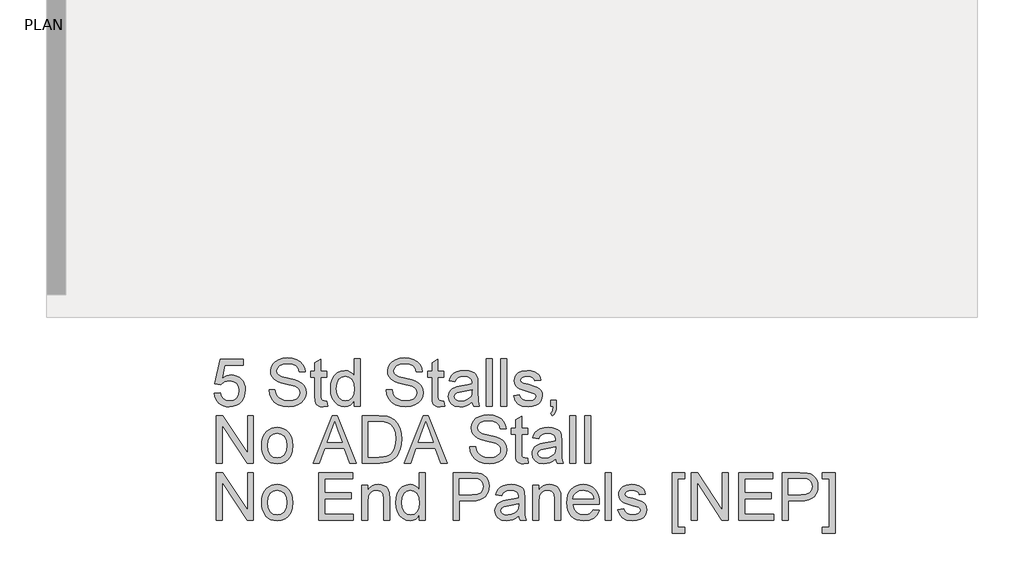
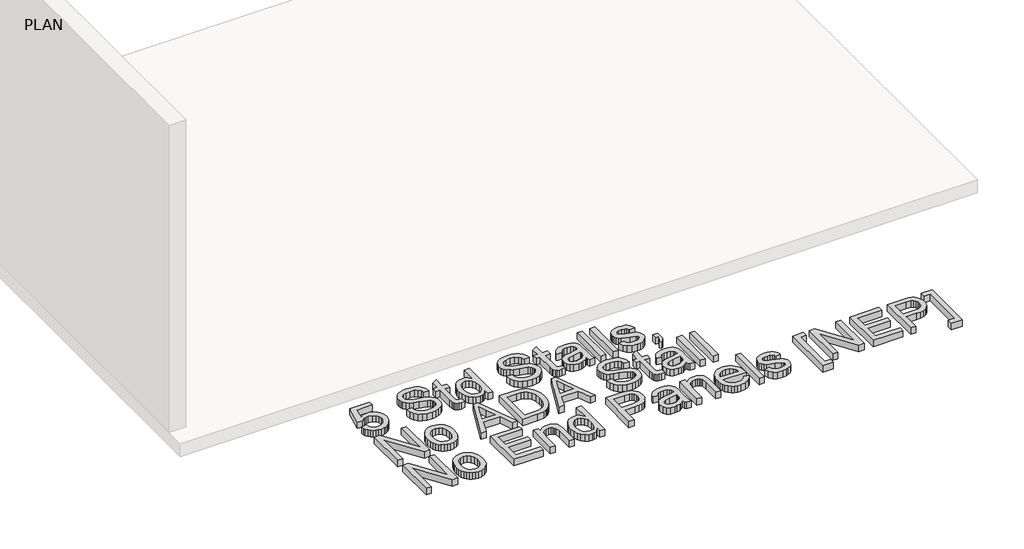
# One storey, part 6 of 21: 1 proxy.
"""IFC4 building model written with IfcOpenShell, lengths in millimetres."""

from ifc_helpers import new_model, si_unit, origin, origin_with_axes, place, context, project, spatial, polyline, outline, extrude, element, save

model = new_model("IFC4")

# Units and contexts
model_context = context("Model", 3, world=origin())
ifc_project = project(units=[si_unit("LENGTHUNIT", "METRE", prefix="MILLI")], contexts=[model_context])

# Site, building, storey
site = spatial("IfcSite", under=ifc_project)
building = spatial("IfcBuilding", under=site)
storey = spatial("IfcBuildingStorey", under=building, Name="PLAN", Elevation=0.0)

# Proxy
placement = place(None, origin())
element("IfcBuildingElementProxy", 1, Name="12\" Arial", ObjectType="12\" Arial", at=placement, inside=storey, context=model_context, shape_type="SweptSolid", body=[
    extrude(outline(polyline([(9685.777174, -13274.8598018), (9723.8480607, -13270.1009409), (9730.8376376, -13292.9564855), (9743.0322185, -13309.3243643), (9760.3760356, -13319.1673987), (9782.8133209, -13322.4484102), (9810.1024135, -13317.884737), (9830.5506437, -13304.1937174), (9843.321493, -13282.955442), (9847.5784427, -13255.7500012), (9843.5910378, -13230.1339455), (9831.6288231, -13210.5408232), (9811.5988522, -13198.1045813), (9783.4081785, -13193.9591674), (9764.9397088, -13195.6136151), (9749.9846168, -13200.5769583), (9728.6069216, -13217.7534716), (9690.5360348, -13212.9946108), (9723.8480607, -13055.9522029), (9871.3727469, -13055.9522029), (9871.3727469, -13094.0230897), (9754.6319418, -13094.0230897), (9738.3477149, -13177.898012), (9765.543861, -13161.3907135), (9794.0412582, -13155.8882806), (9812.5817614, -13157.5938489), (9829.6118841, -13162.7105538), (9845.1316261, -13171.2383953), (9859.1409874, -13183.1773733), (9870.738387, -13197.7978579), (9879.0222439, -13214.370219), (9883.9925581, -13232.8944566), (9885.6493294, -13253.3705708), (9879.6821641, -13291.4414575), (9872.2232074, -13308.4134886), (9861.780668, -13324.0099114), (9845.9611736, -13339.9827676), (9827.5019985, -13351.3919506), (9806.4031428, -13358.2374604), (9782.6646065, -13360.519297), (9763.0180399, -13359.0530659), (9745.2722292, -13354.6543728), (9729.4271744, -13347.3232175), (9715.4828756, -13337.0596001), (9703.8808287, -13324.3747264), (9695.0625294, -13309.7798021), (9689.0279778, -13293.2748272), (9685.777174, -13274.8598018)])), origin_with_axes(), (0.0, 0.0, 1.0), 50.8),
    extrude(outline(polyline([(10037.9328765, -13251.0654975), (10076.0037632, -13251.0654975), (10080.3722488, -13272.1922372), (10088.2727014, -13289.1735629), (10100.5974074, -13302.6508055), (10118.2386532, -13313.2652959), (10139.8022414, -13320.1526316), (10163.8939745, -13322.4484102), (10185.104366, -13320.7103106), (10203.6750768, -13315.4960119), (10218.7231153, -13307.2423627), (10229.3654897, -13296.3862114), (10235.6951464, -13283.9220856), (10237.805032, -13270.8445129), (10236.2249415, -13258.1015477), (10231.4846699, -13247.0873873), (10221.8554124, -13237.6904961), (10205.6083641, -13229.7993381), (10150.1750709, -13215.2625054), (10113.7865158, -13205.6425426), (10090.5034174, -13196.4873122), (10071.5516259, -13183.6792844), (10058.1208565, -13168.1572188), (10050.1181627, -13150.2557227), (10047.4505982, -13130.3094036), (10050.750199, -13108.011538), (10060.6490013, -13087.2194058), (10076.886755, -13069.5967492), (10099.2032099, -13056.8073107), (10125.9903914, -13049.0276886), (10155.6403252, -13046.4344812), (10187.7626359, -13049.148519), (10215.8696578, -13057.2906325), (10238.9575686, -13070.6935179), (10256.0225461, -13089.1898716), (10266.8229295, -13111.6271569), (10271.1170579, -13136.8528373), (10233.0461711, -13136.8528373), (10226.0565943, -13114.1367124), (10211.4825829, -13097.7409497), (10188.7106902, -13087.8142634), (10157.1274692, -13084.505368), (10124.8006762, -13087.7770848), (10102.6236411, -13097.5922353), (10089.797024, -13112.0361215), (10085.5214849, -13129.1940456), (10088.5515409, -13143.8238248), (10097.6417086, -13155.5908518), (10119.1309396, -13166.1123957), (10159.8043284, -13176.8570112), (10201.7789682, -13187.062537), (10227.1719523, -13195.9668118), (10248.8749602, -13209.7786618), (10264.0159452, -13226.8250501), (10272.9109253, -13246.9200836), (10275.8759187, -13269.8778693), (10272.4647821, -13293.3468608), (10262.2313724, -13315.4216547), (10245.5939487, -13334.4199195), (10222.9707704, -13348.6593235), (10195.7653296, -13357.5543036), (10165.3811185, -13360.519297), (10128.0816877, -13357.3219373), (10097.3814584, -13347.7298584), (10072.9272341, -13331.7058817), (10054.3658178, -13309.2128285), (10042.4500764, -13281.8122), (10037.9328765, -13251.0654975)])), origin_with_axes(), (0.0, 0.0, 1.0), 50.8),
    extrude(outline(polyline([(10409.1240224, -13324.0099114), (10413.8828832, -13356.8757941), (10385.4040754, -13360.519297), (10367.1307933, -13358.9392065), (10353.5048363, -13354.1989349), (10343.8755788, -13346.8933399), (10337.5923953, -13337.6172792), (10334.1347855, -13321.6862489), (10332.9822489, -13294.4157455), (10332.9822489, -13170.1648632), (10304.4290838, -13170.1648632), (10304.4290838, -13132.0939764), (10332.9822489, -13132.0939764), (10332.9822489, -13077.7388627), (10371.0531356, -13055.3573453), (10371.0531356, -13132.0939764), (10409.1240224, -13132.0939764), (10409.1240224, -13170.1648632), (10371.0531356, -13170.1648632), (10371.0531356, -13293.3003875), (10373.06078, -13312.9306885), (10379.5670351, -13319.8830868), (10392.5423666, -13322.4484102), (10409.1240224, -13324.0099114)])), origin_with_axes(), (0.0, 0.0, 1.0), 50.8),
    extrude(outline(polyline([(10585.2018736, -13355.7604361), (10585.2018736, -13319.8459082), (10573.81128, -13337.6405158), (10560.0133719, -13350.3509498), (10543.8081495, -13357.9772102), (10525.1956127, -13360.519297), (10500.5833792, -13356.8386155), (10478.0531474, -13345.7965712), (10458.9805254, -13328.16462), (10444.7411215, -13304.7142178), (10435.8740253, -13276.393419), (10432.9183266, -13244.1502779), (10435.6416591, -13212.3068067), (10443.8116565, -13183.5491593), (10457.4190242, -13159.5131942), (10476.4544676, -13141.8347697), (10499.4773159, -13130.9600291), (10525.0468983, -13127.3351156), (10543.673377, -13129.9283229), (10560.143497, -13137.7079451), (10574.1040614, -13149.6329811), (10585.2018736, -13164.6624303), (10585.2018736, -13051.1933421), (10623.2727604, -13051.1933421), (10623.2727604, -13355.7604361), (10585.2018736, -13355.7604361)]), holes=[polyline([(10470.9892134, -13244.0015635), (10475.2833417, -13278.438242), (10488.1657267, -13302.929645), (10506.885152, -13317.5687189), (10528.6904011, -13322.4484102), (10550.4863556, -13317.7917905), (10568.7317537, -13303.8219314), (10581.0843436, -13280.2785828), (10585.2018736, -13246.9014943), (10581.0099864, -13210.4106981), (10568.4343249, -13185.1106605), (10549.7241943, -13170.3321669), (10527.1288999, -13165.4060023), (10505.1005792, -13170.1369792), (10487.0503687, -13184.3299099), (10475.0045022, -13208.7097771), (10470.9892134, -13244.0015635)])]), origin_with_axes(), (0.0, 0.0, 1.0), 50.8),
    extrude(outline(polyline([(10789.83289, -13251.0654975), (10827.9037767, -13251.0654975), (10832.2722623, -13272.1922372), (10840.1727148, -13289.1735629), (10852.4974209, -13302.6508055), (10870.1386667, -13313.2652959), (10891.7022549, -13320.1526316), (10915.793988, -13322.4484102), (10937.0043795, -13320.7103106), (10955.5750903, -13315.4960119), (10970.6231288, -13307.2423627), (10981.2655032, -13296.3862114), (10987.5951599, -13283.9220856), (10989.7050454, -13270.8445129), (10988.1249549, -13258.1015477), (10983.3846834, -13247.0873873), (10973.7554259, -13237.6904961), (10957.5083775, -13229.7993381), (10902.0750844, -13215.2625054), (10865.6865293, -13205.6425426), (10842.4034309, -13196.4873122), (10823.4516393, -13183.6792844), (10810.02087, -13168.1572188), (10802.0181762, -13150.2557227), (10799.3506117, -13130.3094036), (10802.6502124, -13108.011538), (10812.5490148, -13087.2194058), (10828.7867685, -13069.5967492), (10851.1032233, -13056.8073107), (10877.8904049, -13049.0276886), (10907.5403387, -13046.4344812), (10939.6626494, -13049.148519), (10967.7696712, -13057.2906325), (10990.8575821, -13070.6935179), (11007.9225596, -13089.1898716), (11018.722943, -13111.6271569), (11023.0170714, -13136.8528373), (10984.9461846, -13136.8528373), (10977.9566077, -13114.1367124), (10963.3825964, -13097.7409497), (10940.6107037, -13087.8142634), (10909.0274827, -13084.505368), (10876.7006897, -13087.7770848), (10854.5236546, -13097.5922353), (10841.6970375, -13112.0361215), (10837.4214984, -13129.1940456), (10840.4515543, -13143.8238248), (10849.5417221, -13155.5908518), (10871.0309531, -13166.1123957), (10911.7043419, -13176.8570112), (10953.6789817, -13187.062537), (10979.0719657, -13195.9668118), (11000.7749737, -13209.7786618), (11015.9159587, -13226.8250501), (11024.8109388, -13246.9200836), (11027.7759322, -13269.8778693), (11024.3647956, -13293.3468608), (11014.1313859, -13315.4216547), (10997.4939622, -13334.4199195), (10974.8707839, -13348.6593235), (10947.6653431, -13357.5543036), (10917.281132, -13360.519297), (10879.9817012, -13357.3219373), (10849.2814719, -13347.7298584), (10824.8272475, -13331.7058817), (10806.2658313, -13309.2128285), (10794.3500899, -13281.8122), (10789.83289, -13251.0654975)])), origin_with_axes(), (0.0, 0.0, 1.0), 50.8),
    extrude(outline(polyline([(11161.0240359, -13324.0099114), (11165.7828967, -13356.8757941), (11137.3040888, -13360.519297), (11119.0308068, -13358.9392065), (11105.4048497, -13354.1989349), (11095.7755922, -13346.8933399), (11089.4924088, -13337.6172792), (11086.034799, -13321.6862489), (11084.8822623, -13294.4157455), (11084.8822623, -13170.1648632), (11056.3290973, -13170.1648632), (11056.3290973, -13132.0939764), (11084.8822623, -13132.0939764), (11084.8822623, -13077.7388627), (11122.9531491, -13055.3573453), (11122.9531491, -13132.0939764), (11161.0240359, -13132.0939764), (11161.0240359, -13170.1648632), (11122.9531491, -13170.1648632), (11122.9531491, -13293.3003875), (11124.9607935, -13312.9306885), (11131.4670486, -13319.8830868), (11144.4423801, -13322.4484102), (11161.0240359, -13324.0099114)])), origin_with_axes(), (0.0, 0.0, 1.0), 50.8),
    extrude(outline(polyline([(11341.860748, -13327.2072711), (11323.6711177, -13342.8036939), (11304.9423978, -13353.0092197), (11285.2470343, -13358.6417776), (11264.1574732, -13360.519297), (11232.341886, -13356.002097), (11208.8728945, -13342.4504972), (11194.4011243, -13321.8721419), (11189.5772009, -13296.2746756), (11191.3989523, -13280.4923597), (11196.8642066, -13266.1600093), (11205.2944542, -13253.8910712), (11216.0111858, -13244.2989923), (11242.6682422, -13231.8069826), (11275.6084821, -13226.0814781), (11314.5344767, -13220.0585448), (11341.6376764, -13212.9946108), (11341.860748, -13204.5178899), (11339.2396566, -13187.5272695), (11331.3763827, -13176.410868), (11313.7909047, -13168.1572188), (11289.2902071, -13165.4060023), (11266.6112609, -13167.2370484), (11250.7731771, -13172.7301866), (11239.9727937, -13182.8892391), (11232.4069485, -13198.7180282), (11194.3360618, -13193.9591674), (11200.944558, -13173.1391512), (11210.8061817, -13156.780567), (11224.8411034, -13144.269968), (11243.9694932, -13134.9939072), (11267.3641275, -13129.2498135), (11294.1977823, -13127.3351156), (11319.9346684, -13129.0267419), (11340.3364253, -13134.1016208), (11355.7190712, -13141.7325286), (11366.3986242, -13151.0922412), (11373.4811476, -13162.6640806), (11378.0727047, -13176.9313684), (11379.9316347, -13210.2433944), (11379.9316347, -13257.6089312), (11381.8649219, -13323.7496612), (11389.4493564, -13355.7604361), (11351.3784697, -13355.7604361), (11345.2811792, -13342.5248544), (11341.860748, -13327.2072711)]), holes=[polyline([(11341.860748, -13251.0654975), (11280.4417002, -13262.739578), (11247.6873533, -13268.9112257), (11232.8530917, -13278.9494478), (11227.6480877, -13293.5978163), (11230.482956, -13304.9187001), (11238.9875608, -13314.1947609), (11252.9760092, -13320.3849979), (11272.2624081, -13322.4484102), (11292.7106383, -13320.1712209), (11310.7794381, -13313.3396531), (11325.4278066, -13303.2735471), (11335.6147431, -13291.2927431), (11340.131943, -13278.9494478), (11341.6376764, -13261.8472916), (11341.860748, -13251.0654975)])]), origin_with_axes(), (0.0, 0.0, 1.0), 50.8),
    extrude(outline(polyline([(11432.279104, -13355.7604361), (11432.279104, -13051.1933421), (11470.3499908, -13051.1933421), (11470.3499908, -13355.7604361), (11432.279104, -13355.7604361)])), origin_with_axes(), (0.0, 0.0, 1.0), 50.8),
    extrude(outline(polyline([(11527.4563209, -13355.7604361), (11527.4563209, -13051.1933421), (11565.5272077, -13051.1933421), (11565.5272077, -13355.7604361), (11527.4563209, -13355.7604361)])), origin_with_axes(), (0.0, 0.0, 1.0), 50.8),
    extrude(outline(polyline([(11608.3569553, -13289.1363843), (11646.427842, -13284.3775235), (11652.432186, -13300.6617504), (11664.0504986, -13312.6332597), (11681.3571371, -13319.9946226), (11704.4264586, -13322.4484102), (11727.2169406, -13320.1991049), (11743.2409173, -13313.4511889), (11752.7214604, -13303.673217), (11755.8816415, -13292.3337439), (11752.7028711, -13282.6301292), (11743.1665601, -13275.2315878), (11703.9803154, -13264.3754365), (11646.6509136, -13245.7489577), (11632.1419648, -13236.389245), (11621.6297156, -13223.9994765), (11615.244291, -13209.3696972), (11613.1158161, -13193.2899526), (11614.8260317, -13178.5393429), (11619.9566786, -13164.9226805), (11628.0430242, -13152.9790552), (11638.620336, -13143.2475565), (11662.8236048, -13131.9824406), (11695.5779517, -13127.3351156), (11720.3574888, -13129.2033402), (11741.9024877, -13134.8080142), (11759.2277155, -13143.6007532), (11771.3479392, -13155.0331728), (11779.3785169, -13169.9510862), (11784.4348065, -13189.2003066), (11746.3639198, -13193.9591674), (11741.5585857, -13181.9783634), (11732.0501586, -13172.9532582), (11717.7456922, -13167.2928163), (11698.5522397, -13165.4060023), (11676.6912227, -13167.2091644), (11662.1172114, -13172.6186508), (11653.91933, -13180.4261569), (11651.1867029, -13189.4233782), (11655.7224921, -13200.5026011), (11669.9247175, -13208.9049647), (11702.716243, -13217.0098996), (11758.5956793, -13234.929985), (11773.3555836, -13243.4996524), (11784.5463423, -13255.2295008), (11791.6009817, -13270.1567088), (11793.9525282, -13288.3184551), (11791.1920171, -13307.0936483), (11782.9104839, -13324.7534834), (11769.4239466, -13339.9130577), (11751.0484234, -13351.1874683), (11728.852799, -13358.1863398), (11703.9059582, -13360.519297), (11665.5190533, -13356.0206863), (11637.5049779, -13342.5248544), (11618.804142, -13320.1805156), (11608.3569553, -13289.1363843)])), origin_with_axes(), (0.0, 0.0, 1.0), 50.8),
    extrude(outline(polyline([(11846.2999975, -13355.7604361), (11846.2999975, -13317.6895494), (11884.3708843, -13317.6895494), (11884.3708843, -13355.7604361), (11882.6606687, -13377.5378013), (11877.5300218, -13394.6864307), (11868.6815149, -13407.8383606), (11855.8177192, -13417.6256271), (11846.2999975, -13403.3490446), (11854.5536468, -13396.4524142), (11860.2791512, -13386.9161032), (11865.2610837, -13355.7604361), (11846.2999975, -13355.7604361)])), origin_with_axes(), (0.0, 0.0, 1.0), 50.8),
    extrude(outline(polyline([(9700.0537565, -13721.8131005), (9700.0537565, -13417.2460064), (9740.8015025, -13417.2460064), (9899.925912, -13658.5351227), (9899.925912, -13417.2460064), (9937.9967987, -13417.2460064), (9937.9967987, -13721.8131005), (9897.2490528, -13721.8131005), (9738.1246433, -13480.449627), (9738.1246433, -13721.8131005), (9700.0537565, -13721.8131005)])), origin_with_axes(), (0.0, 0.0, 1.0), 50.8),
    extrude(outline(polyline([(9990.344268, -13609.9798706), (9992.403033, -13581.0130936), (9998.579328, -13556.0523108), (10008.873153, -13535.0975222), (10023.2845079, -13518.1487277), (10037.7934567, -13507.3158131), (10053.8081388, -13499.5780169), (10071.3285542, -13494.9353392), (10090.354703, -13493.3877799), (10111.3582885, -13495.2722702), (10130.3495823, -13500.9257411), (10147.3285844, -13510.3481927), (10162.2952947, -13523.5396248), (10174.5107885, -13540.0538943), (10183.2361413, -13559.4448581), (10188.471353, -13581.712516), (10190.2164235, -13606.8568682), (10187.1305997, -13645.3181302), (10177.8731282, -13674.596278), (10162.7135539, -13696.5223576), (10141.9214217, -13712.927415), (10117.2255364, -13723.1608247), (10090.354703, -13726.5719613), (10069.044394, -13724.694442), (10049.8765018, -13719.061884), (10032.8510265, -13709.6742874), (10017.9679681, -13696.5316522), (10005.8825993, -13679.85705), (9997.2501931, -13659.8735523), (9992.0707493, -13636.5811592), (9990.344268, -13609.9798706)]), holes=[polyline([(10028.4151548, -13609.9055134), (10032.8208189, -13644.3607813), (10046.0378114, -13668.9079522), (10065.9283625, -13683.602794), (10090.354703, -13688.5010745), (10114.6695076, -13683.57491), (10134.5228802, -13668.7964164), (10147.7398726, -13643.9239327), (10152.1455368, -13608.7157982), (10147.7119887, -13575.2643525), (10134.4113444, -13551.0517891), (10114.5300879, -13536.3569473), (10090.354703, -13531.4586667), (10065.9283625, -13536.338358), (10046.0378114, -13550.9774319), (10032.8208189, -13575.4688348), (10028.4151548, -13609.9055134)])]), origin_with_axes(), (0.0, 0.0, 1.0), 50.8),
    extrude(outline(polyline([(10321.3081684, -13721.8131005), (10442.8821915, -13417.2460064), (10475.301931, -13417.2460064), (10596.8759541, -13721.8131005), (10556.6487086, -13721.8131005), (10521.7751814, -13626.6358836), (10396.3345839, -13626.6358836), (10361.5354139, -13721.8131005), (10321.3081684, -13721.8131005)]), holes=[polyline([(10410.3137376, -13588.5649968), (10507.8703849, -13588.5649968), (10480.4325779, -13513.6872957), (10459.0920613, -13455.3168932), (10440.1309751, -13507.143862), (10410.3137376, -13588.5649968)])]), origin_with_axes(), (0.0, 0.0, 1.0), 50.8),
    extrude(outline(polyline([(10637.5493429, -13721.8131005), (10637.5493429, -13417.2460064), (10742.6160675, -13417.2460064), (10796.9711812, -13421.6330812), (10821.2488073, -13430.0912128), (10841.7342161, -13443.419741), (10862.7958932, -13466.6191877), (10877.7974584, -13495.4697815), (10886.7760904, -13529.4138436), (10889.7689677, -13567.893695), (10887.742734, -13600.5829794), (10881.6640328, -13629.3499214), (10872.4065613, -13653.8413244), (10860.8440166, -13673.7039916), (10847.5340777, -13689.3840663), (10833.0344236, -13701.3276917), (10816.3877053, -13710.1854932), (10796.6365738, -13716.6080964), (10747.6723572, -13721.8131005), (10637.5493429, -13721.8131005)]), holes=[polyline([(10675.6202297, -13683.7422137), (10742.9878535, -13683.7422137), (10770.8532145, -13682.3666055), (10791.9892488, -13678.2397809), (10807.9388683, -13671.6034007), (10820.2449851, -13662.6991259), (10833.4712721, -13646.2197113), (10843.4072531, -13624.8884893), (10849.625374, -13598.6125136), (10851.6980809, -13567.2988374), (10847.6363189, -13525.8075194), (10835.4510326, -13495.1723527), (10817.4472954, -13474.1292649), (10795.9301804, -13461.4141836), (10774.0319848, -13456.8412158), (10741.9468527, -13455.3168932), (10675.6202297, -13455.3168932), (10675.6202297, -13683.7422137)])]), origin_with_axes(), (0.0, 0.0, 1.0), 50.8),
    extrude(outline(polyline([(10906.6480523, -13721.8131005), (11028.2220754, -13417.2460064), (11060.6418149, -13417.2460064), (11182.2158381, -13721.8131005), (11141.9885925, -13721.8131005), (11107.1150654, -13626.6358836), (10981.6744678, -13626.6358836), (10946.8752978, -13721.8131005), (10906.6480523, -13721.8131005)]), holes=[polyline([(10995.6536215, -13588.5649968), (11093.2102688, -13588.5649968), (11065.7724618, -13513.6872957), (11044.4319452, -13455.3168932), (11025.470859, -13507.143862), (10995.6536215, -13588.5649968)])]), origin_with_axes(), (0.0, 0.0, 1.0), 50.8),
    extrude(outline(polyline([(11327.5841654, -13617.1181619), (11365.6550522, -13617.1181619), (11370.0235377, -13638.2449015), (11377.9239903, -13655.2262272), (11390.2486963, -13668.7034699), (11407.8899422, -13679.3179603), (11429.4535304, -13686.205296), (11453.5452634, -13688.5010745), (11474.7556549, -13686.762975), (11493.3263658, -13681.5486763), (11508.3744043, -13673.295027), (11519.0167786, -13662.4388757), (11525.3464353, -13649.9747499), (11527.4563209, -13636.8971773), (11525.8762304, -13624.154212), (11521.1359589, -13613.1400516), (11511.5067014, -13603.7431604), (11495.259653, -13595.8520025), (11439.8263599, -13581.3151697), (11403.4378048, -13571.6952069), (11380.1547063, -13562.5399766), (11361.2029148, -13549.7319487), (11347.7721454, -13534.2098831), (11339.7694517, -13516.308387), (11337.1018871, -13496.3620679), (11340.4014879, -13474.0642024), (11350.3002902, -13453.2720701), (11366.5380439, -13435.6494136), (11388.8544988, -13422.859975), (11415.6416804, -13415.0803529), (11445.2916141, -13412.4871455), (11477.4139248, -13415.2011834), (11505.5209467, -13423.3432969), (11528.6088575, -13436.7461823), (11545.6738351, -13455.242536), (11556.4742185, -13477.6798213), (11560.7683468, -13502.9055016), (11522.6974601, -13502.9055016), (11515.7078832, -13480.1893768), (11501.1338719, -13463.793614), (11478.3619791, -13453.8669277), (11446.7787582, -13450.5580323), (11414.4519651, -13453.8297491), (11392.27493, -13463.6448996), (11379.4483129, -13478.0887859), (11375.1727739, -13495.2467099), (11378.2028298, -13509.8764892), (11387.2929976, -13521.6435162), (11408.7822286, -13532.1650601), (11449.4556174, -13542.9096756), (11491.4302572, -13553.1152014), (11516.8232412, -13562.0194762), (11538.5262492, -13575.8313262), (11553.6672342, -13592.8777144), (11562.5622143, -13612.9727479), (11565.5272077, -13635.9305337), (11562.1160711, -13659.3995251), (11551.8826613, -13681.4743191), (11535.2452377, -13700.4725839), (11512.6220594, -13714.7119878), (11485.4166186, -13723.6069679), (11455.0324074, -13726.5719613), (11417.7329766, -13723.3746017), (11387.0327474, -13713.7825228), (11362.578523, -13697.758546), (11344.0171068, -13675.2654928), (11332.1013654, -13647.8648644), (11327.5841654, -13617.1181619)])), origin_with_axes(), (0.0, 0.0, 1.0), 50.8),
    extrude(outline(polyline([(11698.7753113, -13690.0625758), (11703.5341722, -13722.9284585), (11675.0553643, -13726.5719613), (11656.7820822, -13724.9918708), (11643.1561252, -13720.2515992), (11633.5268677, -13712.9460043), (11627.2436843, -13703.6699435), (11623.7860744, -13687.7389132), (11622.6335378, -13660.4684099), (11622.6335378, -13536.2175275), (11594.0803727, -13536.2175275), (11594.0803727, -13498.1466408), (11622.6335378, -13498.1466408), (11622.6335378, -13443.791527), (11660.7044246, -13421.4100096), (11660.7044246, -13498.1466408), (11698.7753113, -13498.1466408), (11698.7753113, -13536.2175275), (11660.7044246, -13536.2175275), (11660.7044246, -13659.3530519), (11662.712069, -13678.9833529), (11669.218324, -13685.9357511), (11682.1936556, -13688.5010745), (11698.7753113, -13690.0625758)])), origin_with_axes(), (0.0, 0.0, 1.0), 50.8),
    extrude(outline(polyline([(11879.6120234, -13693.2599354), (11861.4223932, -13708.8563582), (11842.6936733, -13719.061884), (11822.9983097, -13724.694442), (11801.9087487, -13726.5719613), (11770.0931614, -13722.0547614), (11746.62417, -13708.5031615), (11732.1523998, -13687.9248062), (11727.3284764, -13662.3273399), (11729.1502278, -13646.5450241), (11734.6154821, -13632.2126736), (11743.0457297, -13619.9437355), (11753.7624612, -13610.3516566), (11780.4195177, -13597.8596469), (11813.3597576, -13592.1341424), (11852.2857522, -13586.1112092), (11879.3889518, -13579.0472751), (11879.6120234, -13570.5705542), (11876.9909321, -13553.5799339), (11869.1276581, -13542.4635324), (11851.5421802, -13534.2098831), (11827.0414825, -13531.4586667), (11804.3625363, -13533.2897127), (11788.5244526, -13538.7828509), (11777.7240692, -13548.9419035), (11770.158224, -13564.7706926), (11732.0873372, -13560.0118317), (11738.6958335, -13539.1918155), (11748.5574572, -13522.8332314), (11762.5923788, -13510.3226324), (11781.7207687, -13501.0465716), (11805.115403, -13495.3024778), (11831.9490578, -13493.3877799), (11857.6859439, -13495.0794062), (11878.0877008, -13500.1542852), (11893.4703467, -13507.7851929), (11904.1498997, -13517.1449055), (11911.232423, -13528.7167449), (11915.8239802, -13542.9840328), (11917.6829102, -13576.2960587), (11917.6829102, -13623.6615955), (11919.6161974, -13689.8023256), (11927.2006319, -13721.8131005), (11889.1297451, -13721.8131005), (11883.0324547, -13708.5775187), (11879.6120234, -13693.2599354)]), holes=[polyline([(11879.6120234, -13617.1181619), (11818.1929756, -13628.7922424), (11785.4386287, -13634.96389), (11770.6043672, -13645.0021121), (11765.3993632, -13659.6504807), (11768.2342314, -13670.9713645), (11776.7388363, -13680.2474253), (11790.7272846, -13686.4376622), (11810.0136836, -13688.5010745), (11830.4619138, -13686.2238853), (11848.5307135, -13679.3923175), (11863.1790821, -13669.3262114), (11873.3660186, -13657.3454075), (11877.8832185, -13645.0021121), (11879.3889518, -13627.899956), (11879.6120234, -13617.1181619)])]), origin_with_axes(), (0.0, 0.0, 1.0), 50.8),
    extrude(outline(polyline([(11970.0303795, -13721.8131005), (11970.0303795, -13417.2460064), (12008.1012662, -13417.2460064), (12008.1012662, -13721.8131005), (11970.0303795, -13721.8131005)])), origin_with_axes(), (0.0, 0.0, 1.0), 50.8),
    extrude(outline(polyline([(12065.2075964, -13721.8131005), (12065.2075964, -13417.2460064), (12103.2784831, -13417.2460064), (12103.2784831, -13721.8131005), (12065.2075964, -13721.8131005)])), origin_with_axes(), (0.0, 0.0, 1.0), 50.8),
    extrude(outline(polyline([(9700.0537565, -14087.8657648), (9700.0537565, -13783.2986707), (9740.8015025, -13783.2986707), (9899.925912, -14024.587787), (9899.925912, -13783.2986707), (9937.9967987, -13783.2986707), (9937.9967987, -14087.8657648), (9897.2490528, -14087.8657648), (9738.1246433, -13846.5022913), (9738.1246433, -14087.8657648), (9700.0537565, -14087.8657648)])), origin_with_axes(), (0.0, 0.0, 1.0), 50.8),
    extrude(outline(polyline([(9990.344268, -13976.0325349), (9992.403033, -13947.065758), (9998.579328, -13922.1049751), (10008.873153, -13901.1501865), (10023.2845079, -13884.2013921), (10037.7934567, -13873.3684774), (10053.8081388, -13865.6306812), (10071.3285542, -13860.9880035), (10090.354703, -13859.4404442), (10111.3582885, -13861.3249346), (10130.3495823, -13866.9784055), (10147.3285844, -13876.400857), (10162.2952947, -13889.5922891), (10174.5107885, -13906.1065587), (10183.2361413, -13925.4975224), (10188.471353, -13947.7651804), (10190.2164235, -13972.9095325), (10187.1305997, -14011.3707946), (10177.8731282, -14040.6489424), (10162.7135539, -14062.5750219), (10141.9214217, -14078.9800793), (10117.2255364, -14089.2134891), (10090.354703, -14092.6246256), (10069.044394, -14090.7471063), (10049.8765018, -14085.1145484), (10032.8510265, -14075.7269518), (10017.9679681, -14062.5843166), (10005.8825993, -14045.9097143), (9997.2501931, -14025.9262166), (9992.0707493, -14002.6338235), (9990.344268, -13976.0325349)]), holes=[polyline([(10028.4151548, -13975.9581777), (10032.8208189, -14010.4134456), (10046.0378114, -14034.9606165), (10065.9283625, -14049.6554583), (10090.354703, -14054.5537389), (10114.6695076, -14049.6275743), (10134.5228802, -14034.8490807), (10147.7398726, -14009.9765971), (10152.1455368, -13974.7684625), (10147.7119887, -13941.3170169), (10134.4113444, -13917.1044534), (10114.5300879, -13902.4096116), (10090.354703, -13897.511331), (10065.9283625, -13902.3910223), (10046.0378114, -13917.0300962), (10032.8208189, -13941.5214992), (10028.4151548, -13975.9581777)])]), origin_with_axes(), (0.0, 0.0, 1.0), 50.8),
    extrude(outline(polyline([(10356.7765531, -14087.8657648), (10356.7765531, -13783.2986707), (10575.6841519, -13783.2986707), (10575.6841519, -13821.3695575), (10394.8474398, -13821.3695575), (10394.8474398, -13911.7879135), (10566.1664303, -13911.7879135), (10566.1664303, -13949.8588003), (10394.8474398, -13949.8588003), (10394.8474398, -14049.794878), (10580.4430128, -14049.794878), (10580.4430128, -14087.8657648), (10356.7765531, -14087.8657648)])), origin_with_axes(), (0.0, 0.0, 1.0), 50.8),
    extrude(outline(polyline([(10632.7904821, -14087.8657648), (10632.7904821, -13864.1993051), (10670.8613688, -13864.1993051), (10670.8613688, -13895.4293294), (10684.0876559, -13879.6841921), (10699.9722129, -13868.4376655), (10718.5150398, -13861.6897496), (10739.7161367, -13859.4404442), (10758.4820352, -13861.252901), (10775.6678432, -13866.6902713), (10790.0001937, -13875.0740457), (10800.2057195, -13885.7257147), (10811.6195498, -13913.7212008), (10813.6271942, -13950.5280151), (10813.6271942, -14087.8657648), (10775.5563074, -14087.8657648), (10775.5563074, -13955.658662), (10771.1692326, -13921.97485), (10765.0998261, -13911.9459226), (10755.6657562, -13904.1663005), (10743.5734165, -13899.1750734), (10729.5292002, -13897.511331), (10707.2313346, -13901.2477803), (10688.2237752, -13912.4571283), (10680.6277224, -13921.6077114), (10675.2019704, -13934.1136631), (10670.8613688, -13969.1916725), (10670.8613688, -14087.8657648), (10632.7904821, -14087.8657648)])), origin_with_axes(), (0.0, 0.0, 1.0), 50.8),
    extrude(outline(polyline([(11003.981628, -14087.8657648), (11003.981628, -14051.9512369), (10992.5910343, -14069.7458445), (10978.7931262, -14082.4562785), (10962.5879038, -14090.0825388), (10943.975367, -14092.6246256), (10919.3631336, -14088.9439442), (10896.8329018, -14077.9018999), (10877.7602798, -14060.2699487), (10863.5208759, -14036.8195465), (10854.6537797, -14008.4987477), (10851.6980809, -13976.2556065), (10854.4214134, -13944.4121354), (10862.5914109, -13915.654488), (10876.1987786, -13891.6185229), (10895.234222, -13873.9400984), (10918.2570702, -13863.0653578), (10943.8266526, -13859.4404442), (10962.4531314, -13862.0336516), (10978.9232513, -13869.8132737), (10992.8838158, -13881.7383098), (11003.981628, -13896.767759), (11003.981628, -13783.2986707), (11042.0525147, -13783.2986707), (11042.0525147, -14087.8657648), (11003.981628, -14087.8657648)]), holes=[polyline([(10889.7689677, -13976.1068921), (10894.063096, -14010.5435707), (10906.9454811, -14035.0349737), (10925.6649063, -14049.6740476), (10947.4701554, -14054.5537389), (10969.2661099, -14049.8971192), (10987.511508, -14035.9272601), (10999.864098, -14012.3839114), (11003.981628, -13979.006823), (10999.7897408, -13942.5160267), (10987.2140792, -13917.2159892), (10968.5039486, -13902.4374956), (10945.9086542, -13897.511331), (10923.8803335, -13902.2423079), (10905.8301231, -13916.4352386), (10893.7842565, -13940.8151058), (10889.7689677, -13976.1068921)])]), origin_with_axes(), (0.0, 0.0, 1.0), 50.8),
    extrude(outline(polyline([(11222.8892268, -14087.8657648), (11222.8892268, -13783.2986707), (11335.7634575, -13783.2986707), (11381.2700643, -13786.1986016), (11401.5602855, -13791.6173826), (11418.2627717, -13800.4380055), (11431.7121304, -13813.0601403), (11442.2429689, -13829.883457), (11449.0466528, -13849.7275349), (11451.3145474, -13871.4119536), (11449.7832538, -13890.1081422), (11445.189373, -13907.3078922), (11437.532905, -13923.0112035), (11426.8138498, -13937.2180762), (11412.098095, -13948.9943978), (11392.4515284, -13957.4060562), (11367.8741499, -13962.4530512), (11338.3659595, -13964.1353828), (11260.9601136, -13964.1353828), (11260.9601136, -14087.8657648), (11222.8892268, -14087.8657648)]), holes=[polyline([(11260.9601136, -13926.0644961), (11340.5966756, -13926.0644961), (11374.3548447, -13922.5697076), (11396.6620049, -13912.0853423), (11409.0982467, -13895.2620257), (11413.2436606, -13872.7503832), (11410.7991677, -13855.648227), (11403.4656887, -13841.2229301), (11392.1540996, -13830.3667788), (11377.7752759, -13823.9720595), (11339.7043891, -13821.3695575), (11260.9601136, -13821.3695575), (11260.9601136, -13926.0644961)])]), origin_with_axes(), (0.0, 0.0, 1.0), 50.8),
    extrude(outline(polyline([(11641.6689812, -14059.3125997), (11623.479351, -14074.9090226), (11604.750631, -14085.1145484), (11585.0552675, -14090.7471063), (11563.9657065, -14092.6246256), (11532.1501192, -14088.1074257), (11508.6811277, -14074.5558259), (11494.2093575, -14053.9774706), (11489.3854342, -14028.3800042), (11491.2071856, -14012.5976884), (11496.6724398, -13998.265338), (11505.1026875, -13985.9963998), (11515.819419, -13976.404321), (11542.4764755, -13963.9123112), (11575.4167154, -13958.1868068), (11614.3427099, -13952.1638735), (11641.4459096, -13945.0999395), (11641.6689812, -13936.6232186), (11639.0478899, -13919.6325982), (11631.1846159, -13908.5161967), (11613.5991379, -13900.2625474), (11589.0984403, -13897.511331), (11566.4194941, -13899.3423771), (11550.5814103, -13904.8355153), (11539.7810269, -13914.9945678), (11532.2151818, -13930.8233569), (11494.144295, -13926.0644961), (11500.7527912, -13905.2444799), (11510.614415, -13888.8858957), (11524.6493366, -13876.3752967), (11543.7777265, -13867.0992359), (11567.1723607, -13861.3551422), (11594.0060155, -13859.4404442), (11619.7429016, -13861.1320706), (11640.1446586, -13866.2069495), (11655.5273045, -13873.8378572), (11666.2068574, -13883.1975699), (11673.2893808, -13894.7694092), (11677.8809379, -13909.0366971), (11679.7398679, -13942.348723), (11679.7398679, -13989.7142599), (11681.6731552, -14055.8549899), (11689.2575896, -14087.8657648), (11651.1867029, -14087.8657648), (11645.0894124, -14074.6301831), (11641.6689812, -14059.3125997)]), holes=[polyline([(11641.6689812, -13983.1708262), (11580.2499334, -13994.8449067), (11547.4955865, -14001.0165544), (11532.661325, -14011.0547765), (11527.4563209, -14025.703145), (11530.2911892, -14037.0240288), (11538.795794, -14046.3000896), (11552.7842424, -14052.4903266), (11572.0706413, -14054.5537389), (11592.5188715, -14052.2765496), (11610.5876713, -14045.4449818), (11625.2360398, -14035.3788758), (11635.4229763, -14023.3980718), (11639.9401763, -14011.0547765), (11641.4459096, -13993.9526203), (11641.6689812, -13983.1708262)])]), origin_with_axes(), (0.0, 0.0, 1.0), 50.8),
    extrude(outline(polyline([(11732.0873372, -14087.8657648), (11732.0873372, -13864.1993051), (11770.158224, -13864.1993051), (11770.158224, -13895.4293294), (11783.3845111, -13879.6841921), (11799.2690681, -13868.4376655), (11817.811895, -13861.6897496), (11839.0129918, -13859.4404442), (11857.7788904, -13861.252901), (11874.9646984, -13866.6902713), (11889.2970488, -13875.0740457), (11899.5025746, -13885.7257147), (11910.9164049, -13913.7212008), (11912.9240493, -13950.5280151), (11912.9240493, -14087.8657648), (11874.8531626, -14087.8657648), (11874.8531626, -13955.658662), (11870.4660877, -13921.97485), (11864.3966812, -13911.9459226), (11854.9626114, -13904.1663005), (11842.8702716, -13899.1750734), (11828.8260554, -13897.511331), (11806.5281898, -13901.2477803), (11787.5206304, -13912.4571283), (11779.9245776, -13921.6077114), (11774.4988256, -13934.1136631), (11770.158224, -13969.1916725), (11770.158224, -14087.8657648), (11732.0873372, -14087.8657648)])), origin_with_axes(), (0.0, 0.0, 1.0), 50.8),
    extrude(outline(polyline([(12121.8677833, -14021.241713), (12159.1950981, -14026.0005738), (12145.7457394, -14054.126185), (12124.2843923, -14075.1506835), (12095.2943787, -14088.2561401), (12059.2590203, -14092.6246256), (12035.6366671, -14090.7401353), (12014.588932, -14085.0866644), (11996.115815, -14075.6642129), (11980.217316, -14062.4727808), (11967.4325248, -14045.8795067), (11958.3005311, -14026.2515294), (11952.8213348, -14003.5888488), (11950.9949361, -13977.891465), (11952.8399241, -13951.3227077), (11958.3748883, -13927.9048368), (11967.5998285, -13907.6378523), (11980.5147448, -13890.5217541), (11996.3714178, -13876.9236811), (12014.4216283, -13867.2107717), (12034.6653762, -13861.3830261), (12057.1026615, -13859.4404442), (12078.8172878, -13861.3783788), (12098.4545597, -13867.1921824), (12116.0144774, -13876.8818551), (12131.4970408, -13890.4473969), (12144.1354413, -13907.5263165), (12153.1628702, -13927.7561224), (12158.5793275, -13951.1368147), (12160.3848133, -13977.6683934), (12160.1617417, -13987.9296871), (11989.0658229, -13987.9296871), (11995.6557298, -14016.4270842), (12010.9640185, -14037.3772255), (12033.0574017, -14050.2596105), (12060.0025923, -14054.5537389), (12080.2649295, -14052.5646838), (12097.3299071, -14046.5975184), (12111.197525, -14036.2804568), (12121.8677833, -14021.241713)]), holes=[polyline([(11989.0658229, -13949.8588003), (12122.3139265, -13949.8588003), (12117.1646904, -13929.7451775), (12107.0707004, -13915.3570592), (12084.875076, -13901.9727631), (12056.9539471, -13897.511331), (12031.2914182, -13901.071182), (12010.0717321, -13911.7507349), (11995.3211224, -13928.3974532), (11989.0658229, -13949.8588003)])]), origin_with_axes(), (0.0, 0.0, 1.0), 50.8),
    extrude(outline(polyline([(12198.4557, -14087.8657648), (12198.4557, -13783.2986707), (12236.5265868, -13783.2986707), (12236.5265868, -14087.8657648), (12198.4557, -14087.8657648)])), origin_with_axes(), (0.0, 0.0, 1.0), 50.8),
    extrude(outline(polyline([(12279.3563344, -14021.241713), (12317.4272212, -14016.4828521), (12323.4315651, -14032.7670791), (12335.0498777, -14044.7385884), (12352.3565162, -14052.0999513), (12375.4258377, -14054.5537389), (12398.2163197, -14052.3044336), (12414.2402965, -14045.5565176), (12423.7208396, -14035.7785457), (12426.8810206, -14024.4390726), (12423.7022503, -14014.7354579), (12414.1659393, -14007.3369164), (12374.9796945, -13996.4807651), (12317.6502928, -13977.8542864), (12303.141344, -13968.4945737), (12292.6290947, -13956.1048052), (12286.2436701, -13941.4750259), (12284.1151952, -13925.3952813), (12285.8254109, -13910.6446716), (12290.9560577, -13897.0280092), (12299.0424033, -13885.0843838), (12309.6197151, -13875.3528852), (12333.8229839, -13864.0877693), (12366.5773308, -13859.4404442), (12391.3568679, -13861.3086689), (12412.9018669, -13866.9133429), (12430.2270946, -13875.7060819), (12442.3473183, -13887.1385015), (12450.377896, -13902.0564149), (12455.4341857, -13921.3056352), (12417.3632989, -13926.0644961), (12412.5579648, -13914.0836921), (12403.0495378, -13905.0585869), (12388.7450713, -13899.398145), (12369.5516188, -13897.511331), (12347.6906018, -13899.3144931), (12333.1165905, -13904.7239795), (12324.9187091, -13912.5314855), (12322.186082, -13921.5287068), (12326.7218712, -13932.6079297), (12340.9240966, -13941.0102934), (12373.7156221, -13949.1152283), (12429.5950584, -13967.0353137), (12444.3549627, -13975.604981), (12455.5457215, -13987.3348295), (12462.6003609, -14002.2620375), (12464.9519073, -14020.4237838), (12462.1913963, -14039.1989769), (12453.909863, -14056.8588121), (12440.4233258, -14072.0183864), (12422.0478025, -14083.292797), (12399.8521781, -14090.2916685), (12374.9053373, -14092.6246256), (12336.5184324, -14088.126015), (12308.5043571, -14074.6301831), (12289.8035211, -14052.2858443), (12279.3563344, -14021.241713)])), origin_with_axes(), (0.0, 0.0, 1.0), 50.8),
    extrude(outline(polyline([(12626.7531761, -14173.52526), (12626.7531761, -13783.2986707), (12707.6538104, -13783.2986707), (12707.6538104, -13821.3695575), (12664.8240628, -13821.3695575), (12664.8240628, -14135.4543732), (12707.6538104, -14135.4543732), (12707.6538104, -14173.52526), (12626.7531761, -14173.52526)])), origin_with_axes(), (0.0, 0.0, 1.0), 50.8),
    extrude(outline(polyline([(12750.483558, -14087.8657648), (12750.483558, -13783.2986707), (12791.231304, -13783.2986707), (12950.3557135, -14024.587787), (12950.3557135, -13783.2986707), (12988.4266003, -13783.2986707), (12988.4266003, -14087.8657648), (12947.6788543, -14087.8657648), (12788.5544448, -13846.5022913), (12788.5544448, -14087.8657648), (12750.483558, -14087.8657648)])), origin_with_axes(), (0.0, 0.0, 1.0), 50.8),
    extrude(outline(polyline([(13055.0506521, -14087.8657648), (13055.0506521, -13783.2986707), (13273.958251, -13783.2986707), (13273.958251, -13821.3695575), (13093.1215389, -13821.3695575), (13093.1215389, -13911.7879135), (13264.4405293, -13911.7879135), (13264.4405293, -13949.8588003), (13093.1215389, -13949.8588003), (13093.1215389, -14049.794878), (13278.7171118, -14049.794878), (13278.7171118, -14087.8657648), (13055.0506521, -14087.8657648)])), origin_with_axes(), (0.0, 0.0, 1.0), 50.8),
    extrude(outline(polyline([(13335.8234419, -14087.8657648), (13335.8234419, -13783.2986707), (13448.6976726, -13783.2986707), (13494.2042794, -13786.1986016), (13514.4945006, -13791.6173826), (13531.1969868, -13800.4380055), (13544.6463455, -13813.0601403), (13555.177184, -13829.883457), (13561.9808679, -13849.7275349), (13564.2487625, -13871.4119536), (13562.7174689, -13890.1081422), (13558.1235881, -13907.3078922), (13550.4671201, -13923.0112035), (13539.7480649, -13937.2180762), (13525.0323101, -13948.9943978), (13505.3857435, -13957.4060562), (13480.808365, -13962.4530512), (13451.3001746, -13964.1353828), (13373.8943287, -13964.1353828), (13373.8943287, -14087.8657648), (13335.8234419, -14087.8657648)]), holes=[polyline([(13373.8943287, -13926.0644961), (13453.5308907, -13926.0644961), (13487.2890598, -13922.5697076), (13509.59622, -13912.0853423), (13522.0324618, -13895.2620257), (13526.1778757, -13872.7503832), (13523.7333828, -13855.648227), (13516.3999038, -13841.2229301), (13505.0883147, -13830.3667788), (13490.709491, -13823.9720595), (13452.6386042, -13821.3695575), (13373.8943287, -13821.3695575), (13373.8943287, -13926.0644961)])]), origin_with_axes(), (0.0, 0.0, 1.0), 50.8),
    extrude(outline(polyline([(13673.7025619, -14173.52526), (13592.8019276, -14173.52526), (13592.8019276, -14135.4543732), (13635.6316752, -14135.4543732), (13635.6316752, -13821.3695575), (13592.8019276, -13821.3695575), (13592.8019276, -13783.2986707), (13673.7025619, -13783.2986707), (13673.7025619, -14173.52526)])), origin_with_axes(), (0.0, 0.0, 1.0), 50.8),
])

save(model, "model.ifc")
